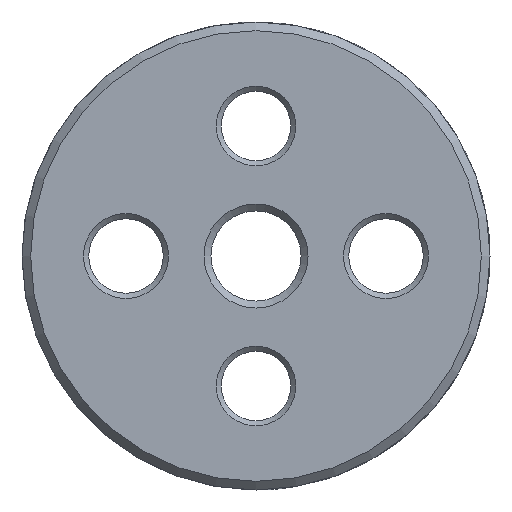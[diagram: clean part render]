
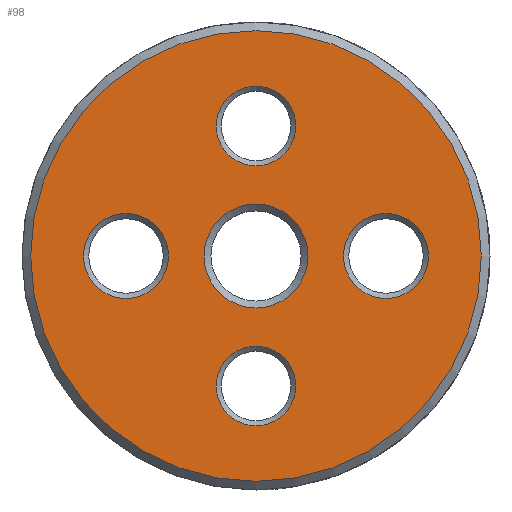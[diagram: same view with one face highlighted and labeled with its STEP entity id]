
A CAD part, front view. The second image highlights one B-rep face of the part: STEP entity #98.
In plain terms, the highlighted planar face has unit normal (0, -1, 0).
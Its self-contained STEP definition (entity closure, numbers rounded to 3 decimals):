
#98 = ADVANCED_FACE( '', ( #170, #171, #172, #173, #174, #175 ), #176, .F. );
#170 = FACE_BOUND( '', #269, .T. );
#171 = FACE_BOUND( '', #270, .T. );
#172 = FACE_BOUND( '', #271, .T. );
#173 = FACE_BOUND( '', #272, .T. );
#174 = FACE_BOUND( '', #273, .T. );
#175 = FACE_OUTER_BOUND( '', #274, .T. );
#176 = PLANE( '', #275 );
#269 = EDGE_LOOP( '', ( #488 ) );
#270 = EDGE_LOOP( '', ( #489 ) );
#271 = EDGE_LOOP( '', ( #490 ) );
#272 = EDGE_LOOP( '', ( #491 ) );
#273 = EDGE_LOOP( '', ( #492 ) );
#274 = EDGE_LOOP( '', ( #493 ) );
#275 = AXIS2_PLACEMENT_3D( '', #494, #495, #496 );
#488 = ORIENTED_EDGE( '', *, *, #627, .F. );
#489 = ORIENTED_EDGE( '', *, *, #616, .F. );
#490 = ORIENTED_EDGE( '', *, *, #628, .F. );
#491 = ORIENTED_EDGE( '', *, *, #629, .F. );
#492 = ORIENTED_EDGE( '', *, *, #630, .F. );
#493 = ORIENTED_EDGE( '', *, *, #601, .T. );
#494 = CARTESIAN_POINT( '', ( 13., 0., 0. ) );
#495 = DIRECTION( '', ( 0., 1., 0. ) );
#496 = DIRECTION( '', ( 0., 0., 1. ) );
#601 = EDGE_CURVE( '', #704, #704, #705, .T. );
#616 = EDGE_CURVE( '', #728, #728, #729, .F. );
#627 = EDGE_CURVE( '', #746, #746, #747, .T. );
#628 = EDGE_CURVE( '', #748, #748, #749, .T. );
#629 = EDGE_CURVE( '', #750, #750, #751, .T. );
#630 = EDGE_CURVE( '', #752, #752, #753, .T. );
#704 = VERTEX_POINT( '', #937 );
#705 = CIRCLE( '', #938, 13. );
#728 = VERTEX_POINT( '', #977 );
#729 = CIRCLE( '', #978, 2.45 );
#746 = VERTEX_POINT( '', #1005 );
#747 = CIRCLE( '', #1006, 3. );
#748 = VERTEX_POINT( '', #1007 );
#749 = CIRCLE( '', #1008, 2.3 );
#750 = VERTEX_POINT( '', #1009 );
#751 = CIRCLE( '', #1010, 2.3 );
#752 = VERTEX_POINT( '', #1011 );
#753 = CIRCLE( '', #1012, 2.45 );
#937 = CARTESIAN_POINT( '', ( 0., 0., -13. ) );
#938 = AXIS2_PLACEMENT_3D( '', #1096, #1097, #1098 );
#977 = CARTESIAN_POINT( '', ( 7.5, 0., 2.45 ) );
#978 = AXIS2_PLACEMENT_3D( '', #1124, #1125, #1126 );
#1005 = CARTESIAN_POINT( '', ( 0., 0., -3. ) );
#1006 = AXIS2_PLACEMENT_3D( '', #1146, #1147, #1148 );
#1007 = CARTESIAN_POINT( '', ( 0., 0., 5.2 ) );
#1008 = AXIS2_PLACEMENT_3D( '', #1149, #1150, #1151 );
#1009 = CARTESIAN_POINT( '', ( 0., 0., -9.8 ) );
#1010 = AXIS2_PLACEMENT_3D( '', #1152, #1153, #1154 );
#1011 = CARTESIAN_POINT( '', ( -7.5, 0., -2.45 ) );
#1012 = AXIS2_PLACEMENT_3D( '', #1155, #1156, #1157 );
#1096 = CARTESIAN_POINT( '', ( 0., 0., 0. ) );
#1097 = DIRECTION( '', ( 0., -1., 0. ) );
#1098 = DIRECTION( '', ( 0., 0., -1. ) );
#1124 = CARTESIAN_POINT( '', ( 7.5, 0., 0. ) );
#1125 = DIRECTION( '', ( 0., 1., 0. ) );
#1126 = DIRECTION( '', ( 0., 0., 1. ) );
#1146 = CARTESIAN_POINT( '', ( 0., 0., 0. ) );
#1147 = DIRECTION( '', ( 0., -1., 0. ) );
#1148 = DIRECTION( '', ( 0., 0., -1. ) );
#1149 = CARTESIAN_POINT( '', ( 0., 0., 7.5 ) );
#1150 = DIRECTION( '', ( 0., -1., 0. ) );
#1151 = DIRECTION( '', ( 0., 0., -1. ) );
#1152 = CARTESIAN_POINT( '', ( 0., 0., -7.5 ) );
#1153 = DIRECTION( '', ( 0., -1., 0. ) );
#1154 = DIRECTION( '', ( 0., 0., -1. ) );
#1155 = CARTESIAN_POINT( '', ( -7.5, 0., 0. ) );
#1156 = DIRECTION( '', ( 0., -1., 0. ) );
#1157 = DIRECTION( '', ( 0., 0., -1. ) );
